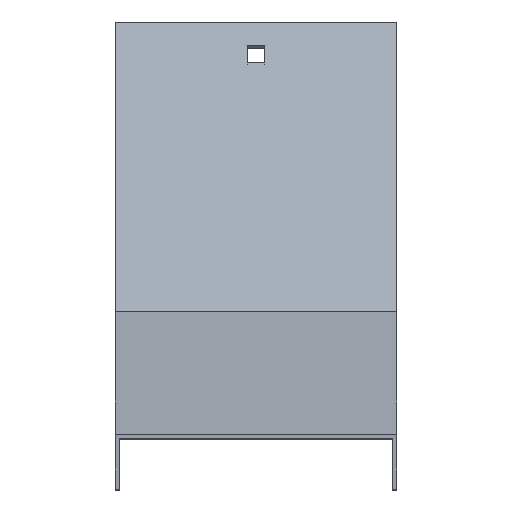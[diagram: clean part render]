
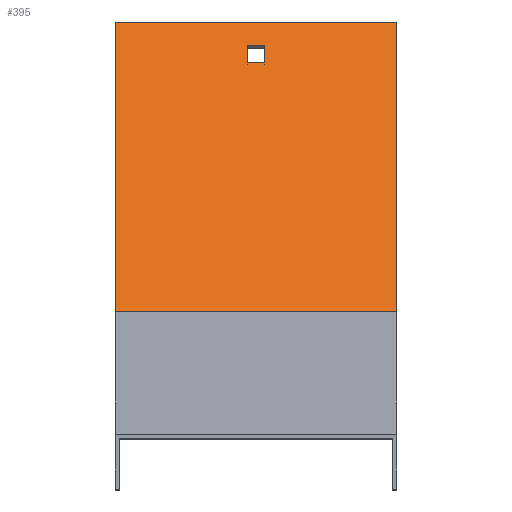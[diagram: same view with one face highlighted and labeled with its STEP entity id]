
A CAD part, top view. The second image highlights one B-rep face of the part: STEP entity #395.
In plain terms, the highlighted planar face has unit normal (0, 0.707, 0.707).
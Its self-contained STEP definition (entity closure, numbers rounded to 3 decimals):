
#4 = VECTOR ( 'NONE', #763, 1000. ) ;
#21 = VERTEX_POINT ( 'NONE', #626 ) ;
#59 = EDGE_LOOP ( 'NONE', ( #200, #605, #448, #440 ) ) ;
#81 = VECTOR ( 'NONE', #100, 1000. ) ;
#86 = EDGE_CURVE ( 'NONE', #21, #676, #289, .T. ) ;
#91 = VERTEX_POINT ( 'NONE', #559 ) ;
#100 = DIRECTION ( 'NONE',  ( -1., 0., 0. ) ) ;
#103 = DIRECTION ( 'NONE',  ( 0., 0.707, -0.707 ) ) ;
#110 = DIRECTION ( 'NONE',  ( -1., 0., 0. ) ) ;
#114 = VERTEX_POINT ( 'NONE', #774 ) ;
#120 = CARTESIAN_POINT ( 'NONE',  ( 51.5, 151.426, -365.574 ) ) ;
#136 = ORIENTED_EDGE ( 'NONE', *, *, #636, .T. ) ;
#143 = VERTEX_POINT ( 'NONE', #441 ) ;
#145 = EDGE_CURVE ( 'NONE', #535, #114, #371, .T. ) ;
#168 = CARTESIAN_POINT ( 'NONE',  ( -51.5, 45.501, -259.649 ) ) ;
#172 = ORIENTED_EDGE ( 'NONE', *, *, #210, .T. ) ;
#186 = LINE ( 'NONE', #650, #277 ) ;
#199 = EDGE_CURVE ( 'NONE', #317, #382, #186, .T. ) ;
#200 = ORIENTED_EDGE ( 'NONE', *, *, #855, .F. ) ;
#210 = EDGE_CURVE ( 'NONE', #91, #143, #253, .T. ) ;
#222 = CARTESIAN_POINT ( 'NONE',  ( -3.25, 136.576, -350.725 ) ) ;
#245 = DIRECTION ( 'NONE',  ( -1., 0., 0. ) ) ;
#253 = LINE ( 'NONE', #120, #366 ) ;
#254 = DIRECTION ( 'NONE',  ( 0., -0.707, 0.707 ) ) ;
#261 = EDGE_CURVE ( 'NONE', #114, #317, #567, .T. ) ;
#277 = VECTOR ( 'NONE', #314, 1000. ) ;
#283 = LINE ( 'NONE', #168, #640 ) ;
#289 = LINE ( 'NONE', #296, #637 ) ;
#296 = CARTESIAN_POINT ( 'NONE',  ( 51.5, 45.501, -259.649 ) ) ;
#314 = DIRECTION ( 'NONE',  ( 1., 0., 0. ) ) ;
#317 = VERTEX_POINT ( 'NONE', #704 ) ;
#364 = CARTESIAN_POINT ( 'NONE',  ( 3.25, 142.94, -357.089 ) ) ;
#366 = VECTOR ( 'NONE', #245, 1000. ) ;
#371 = LINE ( 'NONE', #645, #81 ) ;
#382 = VERTEX_POINT ( 'NONE', #642 ) ;
#395 = ADVANCED_FACE ( 'NONE', ( #578, #654 ), #582, .T. ) ;
#416 = EDGE_LOOP ( 'NONE', ( #464, #614, #136, #172 ) ) ;
#419 = CARTESIAN_POINT ( 'NONE',  ( 51.5, 45.501, -259.649 ) ) ;
#422 = AXIS2_PLACEMENT_3D ( 'NONE', #783, #516, #254 ) ;
#440 = ORIENTED_EDGE ( 'NONE', *, *, #145, .F. ) ;
#441 = CARTESIAN_POINT ( 'NONE',  ( -51.5, 151.426, -365.574 ) ) ;
#448 = ORIENTED_EDGE ( 'NONE', *, *, #261, .F. ) ;
#464 = ORIENTED_EDGE ( 'NONE', *, *, #800, .F. ) ;
#496 = LINE ( 'NONE', #574, #592 ) ;
#516 = DIRECTION ( 'NONE',  ( 0., 0.707, 0.707 ) ) ;
#535 = VERTEX_POINT ( 'NONE', #364 ) ;
#559 = CARTESIAN_POINT ( 'NONE',  ( 51.5, 151.426, -365.574 ) ) ;
#567 = LINE ( 'NONE', #222, #4 ) ;
#574 = CARTESIAN_POINT ( 'NONE',  ( 3.25, 136.576, -350.725 ) ) ;
#578 = FACE_BOUND ( 'NONE', #59, .T. ) ;
#582 = PLANE ( 'NONE',  #422 ) ;
#592 = VECTOR ( 'NONE', #764, 1000. ) ;
#605 = ORIENTED_EDGE ( 'NONE', *, *, #199, .F. ) ;
#614 = ORIENTED_EDGE ( 'NONE', *, *, #86, .F. ) ;
#626 = CARTESIAN_POINT ( 'NONE',  ( 51.5, 45.501, -259.649 ) ) ;
#628 = CARTESIAN_POINT ( 'NONE',  ( -51.5, 45.501, -259.649 ) ) ;
#636 = EDGE_CURVE ( 'NONE', #21, #91, #761, .T. ) ;
#637 = VECTOR ( 'NONE', #110, 1000. ) ;
#640 = VECTOR ( 'NONE', #103, 1000. ) ;
#642 = CARTESIAN_POINT ( 'NONE',  ( 3.25, 136.576, -350.725 ) ) ;
#645 = CARTESIAN_POINT ( 'NONE',  ( 3.25, 142.94, -357.089 ) ) ;
#650 = CARTESIAN_POINT ( 'NONE',  ( 3.25, 136.576, -350.725 ) ) ;
#654 = FACE_OUTER_BOUND ( 'NONE', #416, .T. ) ;
#676 = VERTEX_POINT ( 'NONE', #628 ) ;
#704 = CARTESIAN_POINT ( 'NONE',  ( -3.25, 136.576, -350.725 ) ) ;
#754 = DIRECTION ( 'NONE',  ( 0., 0.707, -0.707 ) ) ;
#761 = LINE ( 'NONE', #419, #767 ) ;
#763 = DIRECTION ( 'NONE',  ( 0., -0.707, 0.707 ) ) ;
#764 = DIRECTION ( 'NONE',  ( 0., 0.707, -0.707 ) ) ;
#767 = VECTOR ( 'NONE', #754, 1000. ) ;
#774 = CARTESIAN_POINT ( 'NONE',  ( -3.25, 142.94, -357.089 ) ) ;
#783 = CARTESIAN_POINT ( 'NONE',  ( 51.5, 45.501, -259.649 ) ) ;
#800 = EDGE_CURVE ( 'NONE', #676, #143, #283, .T. ) ;
#855 = EDGE_CURVE ( 'NONE', #382, #535, #496, .T. ) ;
